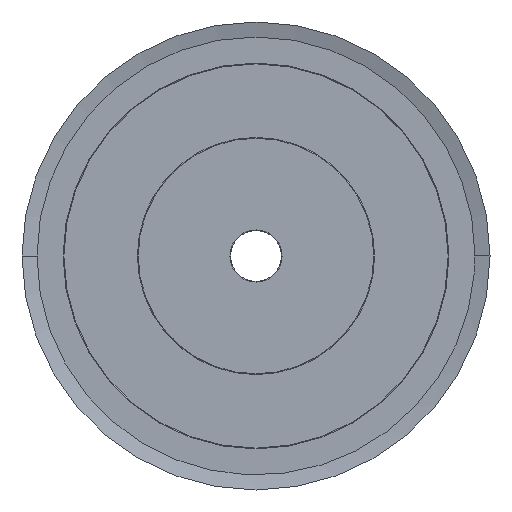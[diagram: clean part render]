
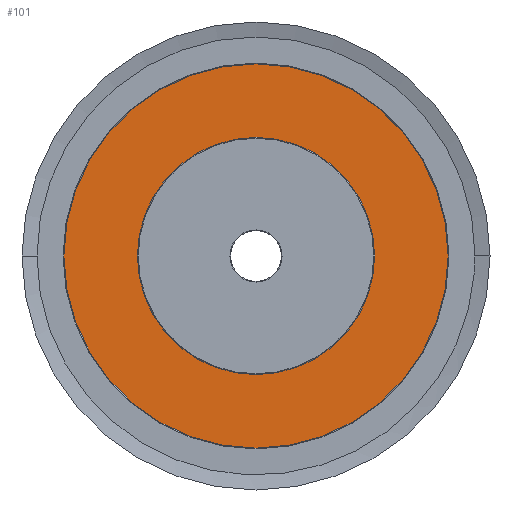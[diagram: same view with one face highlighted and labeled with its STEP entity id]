
A CAD part, left-side view. The second image highlights one B-rep face of the part: STEP entity #101.
In plain terms, the highlighted planar face has unit normal (-1, 0, 0).
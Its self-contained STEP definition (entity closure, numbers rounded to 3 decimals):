
#101=ADVANCED_FACE('',(#618,#619),#620,.T.);
#618=FACE_BOUND('',#1600,.T.);
#619=FACE_OUTER_BOUND('',#1601,.T.);
#620=PLANE('',#1602);
#1600=EDGE_LOOP('',(#3103,#3104));
#1601=EDGE_LOOP('',(#3105,#3106,#3107));
#1602=AXIS2_PLACEMENT_3D('',#3108,#3109,#3110);
#3103=ORIENTED_EDGE('',*,*,#7314,.T.);
#3104=ORIENTED_EDGE('',*,*,#7299,.T.);
#3105=ORIENTED_EDGE('',*,*,#7320,.F.);
#3106=ORIENTED_EDGE('',*,*,#7321,.F.);
#3107=ORIENTED_EDGE('',*,*,#7268,.F.);
#3108=CARTESIAN_POINT('',(56.35,0.0,0.0));
#3109=DIRECTION('',(-1.0,0.0,0.0));
#3110=DIRECTION('',(0.0,0.0,1.0));
#7268=EDGE_CURVE('',#9102,#9105,#9106,.T.);
#7299=EDGE_CURVE('',#9157,#9160,#9162,.T.);
#7314=EDGE_CURVE('',#9160,#9157,#9185,.T.);
#7320=EDGE_CURVE('',#9191,#9102,#9192,.T.);
#7321=EDGE_CURVE('',#9105,#9191,#9193,.T.);
#9102=VERTEX_POINT('',#13804);
#9105=VERTEX_POINT('',#13808);
#9106=CIRCLE('',#13809,121.5);
#9157=VERTEX_POINT('',#13873);
#9160=VERTEX_POINT('',#13877);
#9162=CIRCLE('',#13880,75.0);
#9185=CIRCLE('',#13909,75.0);
#9191=VERTEX_POINT('',#13915);
#9192=CIRCLE('',#13916,121.5);
#9193=CIRCLE('',#13917,121.5);
#13804=CARTESIAN_POINT('',(56.35,121.5,0.));
#13808=CARTESIAN_POINT('',(56.35,-121.5,0.));
#13809=AXIS2_PLACEMENT_3D('',#18458,#18459,#18460);
#13873=CARTESIAN_POINT('',(56.35,0.,-75.0));
#13877=CARTESIAN_POINT('',(56.35,0.,75.0));
#13880=AXIS2_PLACEMENT_3D('',#18521,#18522,#18523);
#13909=AXIS2_PLACEMENT_3D('',#18554,#18555,#18556);
#13915=CARTESIAN_POINT('',(56.35,0.0,-121.5));
#13916=AXIS2_PLACEMENT_3D('',#18572,#18573,#18574);
#13917=AXIS2_PLACEMENT_3D('',#18575,#18576,#18577);
#18458=CARTESIAN_POINT('',(56.35,0.0,0.0));
#18459=DIRECTION('',(1.0,0.0,0.0));
#18460=DIRECTION('',(0.0,1.0,0.0));
#18521=CARTESIAN_POINT('',(56.35,0.0,0.0));
#18522=DIRECTION('',(1.0,0.0,0.0));
#18523=DIRECTION('',(0.0,0.0,-1.0));
#18554=CARTESIAN_POINT('',(56.35,0.0,0.0));
#18555=DIRECTION('',(1.0,0.0,0.0));
#18556=DIRECTION('',(0.0,0.0,-1.0));
#18572=CARTESIAN_POINT('',(56.35,0.0,0.0));
#18573=DIRECTION('',(1.0,0.0,0.0));
#18574=DIRECTION('',(0.0,1.0,0.0));
#18575=CARTESIAN_POINT('',(56.35,0.0,0.0));
#18576=DIRECTION('',(1.0,0.0,0.0));
#18577=DIRECTION('',(0.0,1.0,0.0));
